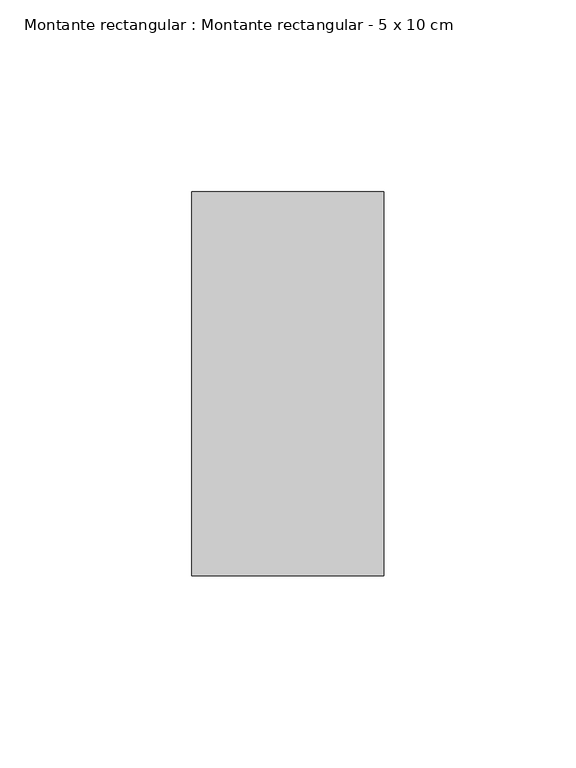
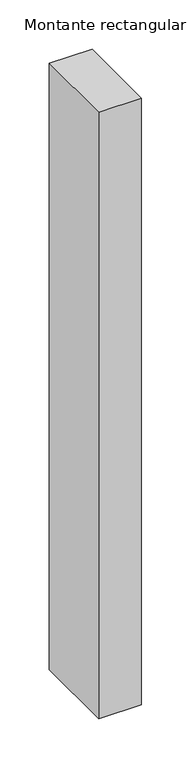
"""IFC4 building model written with IfcOpenShell, lengths in millimetres: member geometry, Montante rectangular : Montante rectangular - 5 x 10 cm."""

from ifc_helpers import new_model, si_unit, frame, origin, place, context, project, spatial, polyline, outline, extrude, source, transform, mapped, element, save


def montante_rectangular_montante_rectangular_5_x_10_cm_f9611945(model_context):
    return source(origin(), model_context, "Body", "SweptSolid", [
        extrude(outline(polyline([(25.0, 50.0), (25.0, -50.0), (-25.0, -50.0), (-25.0, 50.0), (25.0, 50.0)])), frame((0.0, 0.0, -750.0), z_axis=(0.0, 0.0, 1.0), x_axis=(1.0, 0.0, 0.0)), (0.0, 0.0, 1.0), 750.0),
    ])


if __name__ == "__main__":
    model = new_model("IFC4")
    model_context = context("Model", 3, world=origin())
    ifc_project = project(units=[si_unit("LENGTHUNIT", "METRE", prefix="MILLI")], contexts=[model_context])
    site = spatial("IfcSite", under=ifc_project)
    building = spatial("IfcBuilding", under=site)
    placement = place(None, origin())
    montante_rectangular_montante_rectangular_5_x_10_cm_shape = montante_rectangular_montante_rectangular_5_x_10_cm_f9611945(model_context)
    element("IfcMember", 1, ObjectType="Montante rectangular : Montante rectangular - 5 x 10 cm", at=placement, inside=building, context=model_context, shape_type="MappedRepresentation", body=[
        mapped(montante_rectangular_montante_rectangular_5_x_10_cm_shape, transform((0.0, 0.0, 0.0), x_axis=(1.0, 0.0, 0.0), y_axis=(0.0, 1.0, 0.0), z_axis=(0.0, 0.0, 1.0))),
    ])
    save(model, "model.ifc")
